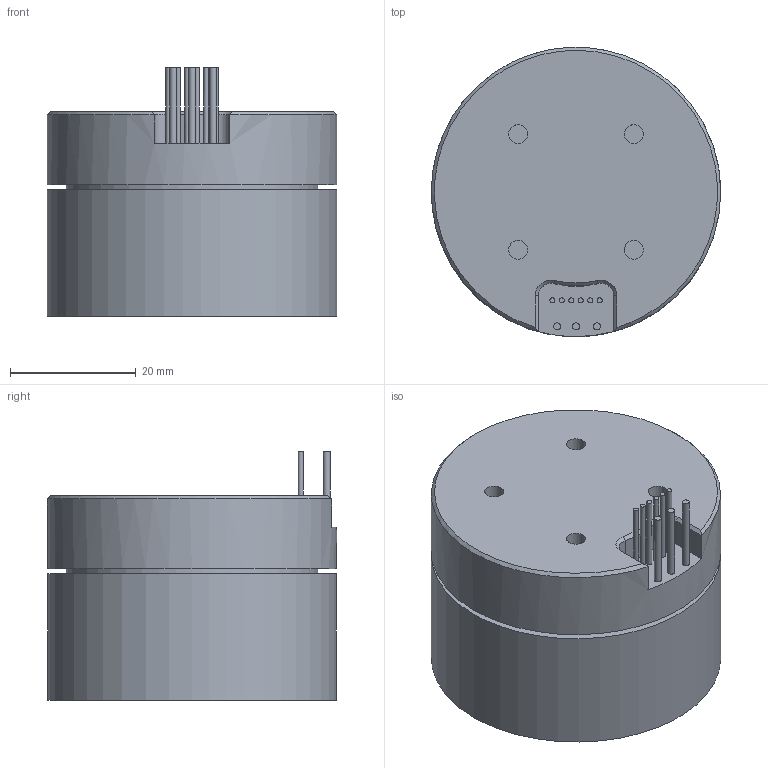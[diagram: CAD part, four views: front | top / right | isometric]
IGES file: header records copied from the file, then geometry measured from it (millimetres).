
Global section: file name: M4625; native system: unknown; preprocessor: unknown; author: unknown; organization: unknown; date: 20191001.085026; units: millimetre
Bounding box: 46 x 45.95 x 39.5 mm (x, y, z)
Volume: 51529.4 mm3; surface area: 10444 mm2
Topology: 1 solids, 5 shells, 99 faces, 194 edges, 125 vertices
Faces by surface type: bspline 99
